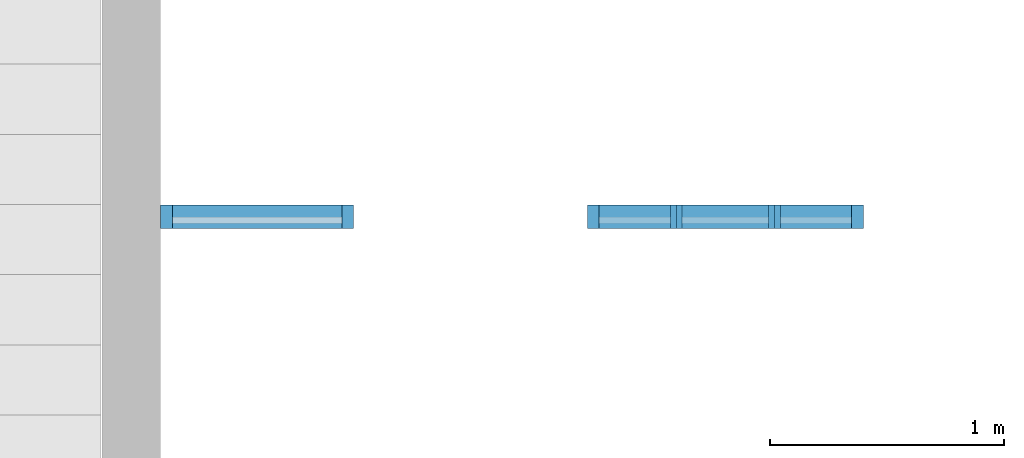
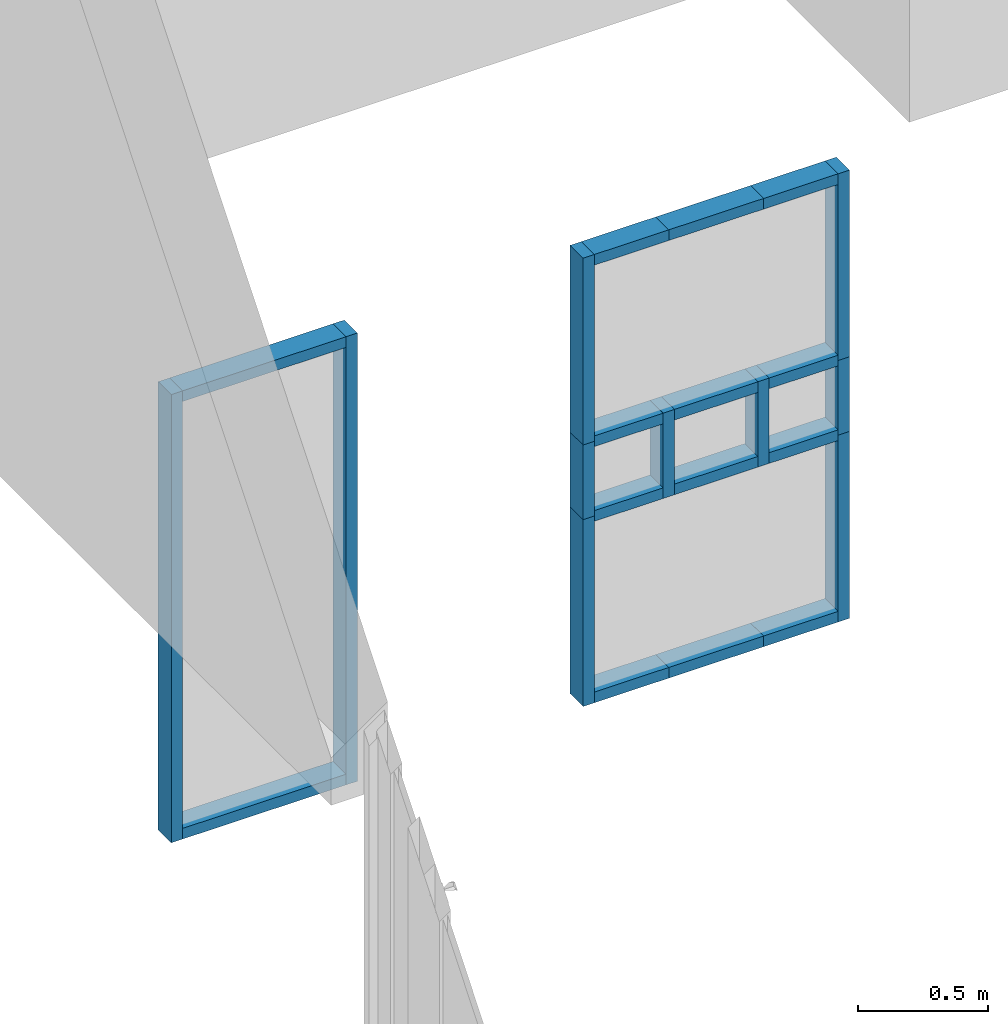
# One storey, part 1 of 46: 24 members, 2 elements without a shape of their own.
"""IFC2X3 building model written with IfcOpenShell, lengths in millimetres."""

from ifc_helpers import new_model, entity, si_unit, converted_unit, derived_unit, direction, frame, origin, origin_2d_with_axis, place, context, subcontext, project, spatial, rectangle, extrude, source, transform, mapped, material, type_object, type_shapes, element, aggregate, save


model = new_model("IFC2X3")

# Units and contexts
model_context = context("Model", 3, precision=0.01, world=origin(), true_north=direction((6.12303176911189e-17, 1.0)))
body_context = subcontext(model_context, "Body", "Model", "MODEL_VIEW")
ifc_project = project(units=[si_unit("LENGTHUNIT", "METRE", prefix="MILLI"), si_unit("AREAUNIT", "SQUARE_METRE"), si_unit("VOLUMEUNIT", "CUBIC_METRE"), converted_unit("PLANEANGLEUNIT", "DEGREE", entity("IfcRatioMeasure", 0.0174532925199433), si_unit("PLANEANGLEUNIT", "RADIAN"), dimensions=[0, 0, 0, 0, 0, 0, 0]), si_unit("MASSUNIT", "GRAM", prefix="KILO"), derived_unit("MASSDENSITYUNIT", [(si_unit("MASSUNIT", "GRAM", prefix="KILO"), 1), (si_unit("LENGTHUNIT", "METRE"), -3)]), si_unit("TIMEUNIT", "SECOND"), si_unit("FREQUENCYUNIT", "HERTZ"), si_unit("THERMODYNAMICTEMPERATUREUNIT", "DEGREE_CELSIUS"), derived_unit("THERMALTRANSMITTANCEUNIT", [(si_unit("MASSUNIT", "GRAM", prefix="KILO"), 1), (si_unit("THERMODYNAMICTEMPERATUREUNIT", "KELVIN"), -1), (si_unit("TIMEUNIT", "SECOND"), -3)]), derived_unit("VOLUMETRICFLOWRATEUNIT", [(si_unit("LENGTHUNIT", "METRE"), 3), (si_unit("TIMEUNIT", "SECOND"), -1)]), si_unit("ELECTRICCURRENTUNIT", "AMPERE"), si_unit("ELECTRICVOLTAGEUNIT", "VOLT"), si_unit("POWERUNIT", "WATT"), si_unit("FORCEUNIT", "NEWTON", prefix="KILO"), si_unit("ILLUMINANCEUNIT", "LUX"), si_unit("LUMINOUSFLUXUNIT", "LUMEN"), si_unit("LUMINOUSINTENSITYUNIT", "CANDELA"), derived_unit("USERDEFINED", [(si_unit("MASSUNIT", "GRAM", prefix="KILO"), -1), (si_unit("LENGTHUNIT", "METRE"), -2), (si_unit("TIMEUNIT", "SECOND"), 3), (si_unit("LUMINOUSFLUXUNIT", "LUMEN"), 1)]), derived_unit("LINEARVELOCITYUNIT", [(si_unit("LENGTHUNIT", "METRE"), 1), (si_unit("TIMEUNIT", "SECOND"), -1)]), si_unit("PRESSUREUNIT", "PASCAL"), derived_unit("USERDEFINED", [(si_unit("LENGTHUNIT", "METRE"), -2), (si_unit("MASSUNIT", "GRAM", prefix="KILO"), 1), (si_unit("TIMEUNIT", "SECOND"), -2)]), derived_unit("LINEARFORCEUNIT", [(si_unit("MASSUNIT", "GRAM", prefix="KILO"), 1), (si_unit("LENGTHUNIT", "METRE"), 1), (si_unit("TIMEUNIT", "SECOND"), -2), (si_unit("LENGTHUNIT", "METRE"), -1)]), derived_unit("PLANARFORCEUNIT", [(si_unit("MASSUNIT", "GRAM", prefix="KILO"), 1), (si_unit("LENGTHUNIT", "METRE"), 1), (si_unit("TIMEUNIT", "SECOND"), -2), (si_unit("LENGTHUNIT", "METRE"), -2)])], contexts=[model_context])

# Site, building, storey
site_placement = place(None, origin())
site = spatial("IfcSite", under=ifc_project, at=site_placement, Name="Default", CompositionType="ELEMENT")
building_placement = place(site_placement, origin())
building = spatial("IfcBuilding", under=site, at=building_placement, Name="SMA ARH", CompositionType="ELEMENT")
storey_placement = place(building_placement, origin())
storey = spatial("IfcBuildingStorey", under=building, at=storey_placement, Name="1 Korrus", CompositionType="ELEMENT", Elevation=0.0)

# Curtain wall, members
curtain_wall_type = type_object("IfcCurtainWallType", Name="Curtain Wall:Curtain Wall SKF-02", PredefinedType="NOTDEFINED")
curtain_wall_1_placement = place(storey_placement, origin())
curtain_wall_1 = element("IfcCurtainWall", 1, at=curtain_wall_1_placement, inside=storey, type_object=curtain_wall_type, Name="Curtain Wall:Curtain Wall SKF-02", ObjectType="Curtain Wall:Curtain Wall SKF-02")
ifc_material = material(Name="__Aknaraam")
member_type_1 = type_object("IfcMemberType", Name="Rectangular Mullion:50 x 100mm", PredefinedType="MULLION", material=ifc_material)
shared_shape_1 = source(origin(), body_context, "Body", "SweptSolid", [
    extrude(rectangle(XDim=100.0, YDim=50.0, at=origin_2d_with_axis()), frame((-25.0, 0.0, -330.0), z_axis=(0.0, 0.0, 1.0), x_axis=(0.0, -1.0, 0.0)), (0.0, 0.0, 1.0), 329.999999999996),
])
type_shapes(member_type_1, [shared_shape_1])
member_1_placement = place(storey_placement, frame((36820.0, 3695.0, 830.0), z_axis=(1.0, 0.0, 0.0), x_axis=(0.0, 0.0, 1.0)))
member_1 = element("IfcMember", 2, at=member_1_placement, type_object=member_type_1, material=ifc_material, Name="Rectangular Mullion:50 x 100mm", ObjectType="Rectangular Mullion:50 x 100mm", context=body_context, shape_type="MappedRepresentation", body=[
    mapped(shared_shape_1, transform((0.0, 0.0, 0.0), scale=1.0)),
])
member_type_2 = type_object("IfcMemberType", Name="Rectangular Mullion:50 x 100mm", PredefinedType="MULLION", material=ifc_material)
shared_shape_2 = source(origin(), body_context, "Body", "SweptSolid", [
    extrude(rectangle(XDim=100.0, YDim=50.0, at=origin_2d_with_axis()), frame((-25.0, 0.0, -330.0), z_axis=(0.0, 0.0, 1.0), x_axis=(0.0, -1.0, 0.0)), (0.0, 0.0, 1.0), 330.000000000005),
])
type_shapes(member_type_2, [shared_shape_2])
member_2_placement = place(storey_placement, frame((35740.0, 3695.0, -1270.0), z_axis=(-1.0, 0.0, 0.0), x_axis=(0.0, 0.0, -1.0)))
member_2 = element("IfcMember", 3, at=member_2_placement, type_object=member_type_2, material=ifc_material, Name="Rectangular Mullion:50 x 100mm", ObjectType="Rectangular Mullion:50 x 100mm", context=body_context, shape_type="MappedRepresentation", body=[
    mapped(shared_shape_2, transform((0.0, 0.0, 0.0), scale=1.0)),
])
member_type_3 = type_object("IfcMemberType", Name="Rectangular Mullion:50 x 100mm", PredefinedType="MULLION", material=ifc_material)
shared_shape_3 = source(origin(), body_context, "Body", "SweptSolid", [
    extrude(rectangle(XDim=100.0, YDim=50.0, at=origin_2d_with_axis()), frame((-25.0, 0.0, -875.0), z_axis=(0.0, 0.0, 1.0), x_axis=(0.0, -1.0, 0.0)), (0.0, 0.0, 1.0), 874.99999999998),
])
type_shapes(member_type_3, [shared_shape_3])
member_3_placement = place(storey_placement, frame((35690.0, 3695.0, 830.0), z_axis=(0.0, 0.0, 1.0), x_axis=(-1.0, 0.0, 0.0)))
member_3 = element("IfcMember", 4, at=member_3_placement, type_object=member_type_3, material=ifc_material, Name="Rectangular Mullion:50 x 100mm", ObjectType="Rectangular Mullion:50 x 100mm", context=body_context, shape_type="MappedRepresentation", body=[
    mapped(shared_shape_3, transform((0.0, 0.0, 0.0), scale=1.0)),
])
member_type_4 = type_object("IfcMemberType", Name="Rectangular Mullion:50 x 100mm", PredefinedType="MULLION", material=ifc_material)
shared_shape_4 = source(origin(), body_context, "Body", "SweptSolid", [
    extrude(rectangle(XDim=100.0, YDim=50.0, at=origin_2d_with_axis()), frame((-25.0, 0.0, -350.0), z_axis=(0.0, 0.0, 1.0), x_axis=(0.0, -1.0, 0.0)), (0.0, 0.0, 1.0), 350.000000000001),
])
type_shapes(member_type_4, [shared_shape_4])
member_4_placement = place(storey_placement, frame((35690.0, 3695.0, -45.0), z_axis=(0.0, 0.0, 1.0), x_axis=(-1.0, 0.0, 0.0)))
member_4 = element("IfcMember", 5, at=member_4_placement, type_object=member_type_4, material=ifc_material, Name="Rectangular Mullion:50 x 100mm", ObjectType="Rectangular Mullion:50 x 100mm", context=body_context, shape_type="MappedRepresentation", body=[
    mapped(shared_shape_4, transform((0.0, 0.0, 0.0), scale=1.0)),
])
member_type_5 = type_object("IfcMemberType", Name="Rectangular Mullion:50 x 100mm", PredefinedType="MULLION", material=ifc_material)
shared_shape_5 = source(origin(), body_context, "Body", "SweptSolid", [
    extrude(rectangle(XDim=100.0, YDim=50.0, at=origin_2d_with_axis()), frame((0.0, 0.0, -305.0), z_axis=(0.0, 0.0, 1.0), x_axis=(0.0, -1.0, 0.0)), (0.0, 0.0, 1.0), 304.999999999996),
])
type_shapes(member_type_5, [shared_shape_5])
member_5_placement = place(storey_placement, frame((36045.0, 3695.0, -45.0), z_axis=(1.0, 0.0, 0.0), x_axis=(0.0, 0.0, 1.0)))
member_5 = element("IfcMember", 6, at=member_5_placement, type_object=member_type_5, material=ifc_material, Name="Rectangular Mullion:50 x 100mm", ObjectType="Rectangular Mullion:50 x 100mm", context=body_context, shape_type="MappedRepresentation", body=[
    mapped(shared_shape_5, transform((0.0, 0.0, 0.0), scale=1.0)),
])
member_6_placement = place(storey_placement, frame((36045.0, 3695.0, -395.0), z_axis=(1.0, 0.0, 0.0), x_axis=(0.0, 0.0, 1.0)))
member_6 = element("IfcMember", 7, at=member_6_placement, type_object=member_type_5, material=ifc_material, Name="Rectangular Mullion:50 x 100mm", ObjectType="Rectangular Mullion:50 x 100mm", context=body_context, shape_type="MappedRepresentation", body=[
    mapped(shared_shape_5, transform((0.0, 0.0, 0.0), scale=1.0)),
])
member_7_placement = place(storey_placement, frame((36820.0, 3695.0, -395.0), z_axis=(1.0, 0.0, 0.0), x_axis=(0.0, 0.0, 1.0)))
member_7 = element("IfcMember", 8, at=member_7_placement, type_object=member_type_5, material=ifc_material, Name="Rectangular Mullion:50 x 100mm", ObjectType="Rectangular Mullion:50 x 100mm", context=body_context, shape_type="MappedRepresentation", body=[
    mapped(shared_shape_5, transform((0.0, 0.0, 0.0), scale=1.0)),
])
member_8_placement = place(storey_placement, frame((36820.0, 3695.0, -45.0), z_axis=(1.0, 0.0, 0.0), x_axis=(0.0, 0.0, 1.0)))
member_8 = element("IfcMember", 9, at=member_8_placement, type_object=member_type_5, material=ifc_material, Name="Rectangular Mullion:50 x 100mm", ObjectType="Rectangular Mullion:50 x 100mm", context=body_context, shape_type="MappedRepresentation", body=[
    mapped(shared_shape_5, transform((0.0, 0.0, 0.0), scale=1.0)),
])
member_type_6 = type_object("IfcMemberType", Name="Rectangular Mullion:50 x 100mm", PredefinedType="MULLION", material=ifc_material)
shared_shape_6 = source(origin(), body_context, "Body", "SweptSolid", [
    extrude(rectangle(XDim=100.0, YDim=50.0, at=origin_2d_with_axis()), frame((-25.0, 0.0, -875.0), z_axis=(0.0, 0.0, 1.0), x_axis=(0.0, -1.0, 0.0)), (0.0, 0.0, 1.0), 875.000000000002),
])
type_shapes(member_type_6, [shared_shape_6])
member_9_placement = place(storey_placement, frame((35690.0, 3695.0, -395.0), z_axis=(0.0, 0.0, 1.0), x_axis=(-1.0, 0.0, 0.0)))
member_9 = element("IfcMember", 10, at=member_9_placement, type_object=member_type_6, material=ifc_material, Name="Rectangular Mullion:50 x 100mm", ObjectType="Rectangular Mullion:50 x 100mm", context=body_context, shape_type="MappedRepresentation", body=[
    mapped(shared_shape_6, transform((0.0, 0.0, 0.0), scale=1.0)),
])
member_type_7 = type_object("IfcMemberType", Name="Rectangular Mullion:50 x 100mm", PredefinedType="MULLION", material=ifc_material)
shared_shape_7 = source(origin(), body_context, "Body", "SweptSolid", [
    extrude(rectangle(XDim=100.0, YDim=50.0, at=origin_2d_with_axis()), frame((-25.0, 0.0, -875.0), z_axis=(0.0, 0.0, 1.0), x_axis=(0.0, -1.0, 0.0)), (0.0, 0.0, 1.0), 874.99999999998),
])
type_shapes(member_type_7, [shared_shape_7])
member_10_placement = place(storey_placement, frame((36870.0, 3695.0, -45.0), z_axis=(0.0, 0.0, -1.0), x_axis=(1.0, 0.0, 0.0)))
member_10 = element("IfcMember", 11, at=member_10_placement, type_object=member_type_7, material=ifc_material, Name="Rectangular Mullion:50 x 100mm", ObjectType="Rectangular Mullion:50 x 100mm", context=body_context, shape_type="MappedRepresentation", body=[
    mapped(shared_shape_7, transform((0.0, 0.0, 0.0), scale=1.0)),
])
member_type_8 = type_object("IfcMemberType", Name="Rectangular Mullion:50 x 100mm", PredefinedType="MULLION", material=ifc_material)
shared_shape_8 = source(origin(), body_context, "Body", "SweptSolid", [
    extrude(rectangle(XDim=100.0, YDim=50.0, at=origin_2d_with_axis()), frame((-25.0, 0.0, -875.0), z_axis=(0.0, 0.0, 1.0), x_axis=(0.0, -1.0, 0.0)), (0.0, 0.0, 1.0), 875.000000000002),
])
type_shapes(member_type_8, [shared_shape_8])
member_11_placement = place(storey_placement, frame((36870.0, 3695.0, -1270.0), z_axis=(0.0, 0.0, -1.0), x_axis=(1.0, 0.0, 0.0)))
member_11 = element("IfcMember", 12, at=member_11_placement, type_object=member_type_8, material=ifc_material, Name="Rectangular Mullion:50 x 100mm", ObjectType="Rectangular Mullion:50 x 100mm", context=body_context, shape_type="MappedRepresentation", body=[
    mapped(shared_shape_8, transform((0.0, 0.0, 0.0), scale=1.0)),
])
member_type_9 = type_object("IfcMemberType", Name="Rectangular Mullion:50 x 100mm", PredefinedType="MULLION", material=ifc_material)
shared_shape_9 = source(origin(), body_context, "Body", "SweptSolid", [
    extrude(rectangle(XDim=100.0, YDim=50.0, at=origin_2d_with_axis()), frame((-25.0, 0.0, -350.0), z_axis=(0.0, 0.0, 1.0), x_axis=(0.0, -1.0, 0.0)), (0.0, 0.0, 1.0), 350.000000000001),
])
type_shapes(member_type_9, [shared_shape_9])
member_12_placement = place(storey_placement, frame((36870.0, 3695.0, -395.0), z_axis=(0.0, 0.0, -1.0), x_axis=(1.0, 0.0, 0.0)))
member_12 = element("IfcMember", 13, at=member_12_placement, type_object=member_type_9, material=ifc_material, Name="Rectangular Mullion:50 x 100mm", ObjectType="Rectangular Mullion:50 x 100mm", context=body_context, shape_type="MappedRepresentation", body=[
    mapped(shared_shape_9, transform((0.0, 0.0, 0.0), scale=1.0)),
])
member_type_10 = type_object("IfcMemberType", Name="Rectangular Mullion:50 x 100mm", PredefinedType="MULLION", material=ifc_material)
shared_shape_10 = source(origin(), body_context, "Body", "SweptSolid", [
    extrude(rectangle(XDim=100.0, YDim=50.0, at=origin_2d_with_axis()), frame((-25.0, 0.0, -330.0), z_axis=(0.0, 0.0, 1.0), x_axis=(0.0, -1.0, 0.0)), (0.0, 0.0, 1.0), 330.000000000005),
])
type_shapes(member_type_10, [shared_shape_10])
member_13_placement = place(storey_placement, frame((36070.0, 3695.0, 830.0), z_axis=(1.0, 0.0, 0.0), x_axis=(0.0, 0.0, 1.0)))
member_13 = element("IfcMember", 14, at=member_13_placement, type_object=member_type_10, material=ifc_material, Name="Rectangular Mullion:50 x 100mm", ObjectType="Rectangular Mullion:50 x 100mm", context=body_context, shape_type="MappedRepresentation", body=[
    mapped(shared_shape_10, transform((0.0, 0.0, 0.0), scale=1.0)),
])
member_type_11 = type_object("IfcMemberType", Name="Rectangular Mullion:50 x 100mm", PredefinedType="MULLION", material=ifc_material)
shared_shape_11 = source(origin(), body_context, "Body", "SweptSolid", [
    extrude(rectangle(XDim=100.0, YDim=50.0, at=origin_2d_with_axis()), frame((-25.0, 0.0, -420.0), z_axis=(0.0, 0.0, 1.0), x_axis=(0.0, -1.0, 0.0)), (0.0, 0.0, 1.0), 420.0),
])
type_shapes(member_type_11, [shared_shape_11])
member_14_placement = place(storey_placement, frame((36070.0, 3695.0, -1270.0), z_axis=(-1.0, 0.0, 0.0), x_axis=(0.0, 0.0, -1.0)))
member_14 = element("IfcMember", 15, at=member_14_placement, type_object=member_type_11, material=ifc_material, Name="Rectangular Mullion:50 x 100mm", ObjectType="Rectangular Mullion:50 x 100mm", context=body_context, shape_type="MappedRepresentation", body=[
    mapped(shared_shape_11, transform((0.0, 0.0, 0.0), scale=1.0)),
])
member_type_12 = type_object("IfcMemberType", Name="Rectangular Mullion:50 x 100mm", PredefinedType="MULLION", material=ifc_material)
shared_shape_12 = source(origin(), body_context, "Body", "SweptSolid", [
    extrude(rectangle(XDim=100.0, YDim=50.0, at=origin_2d_with_axis()), frame((0.0, 0.0, -370.0), z_axis=(0.0, 0.0, 1.0), x_axis=(0.0, -1.0, 0.0)), (0.0, 0.0, 1.0), 370.0),
])
type_shapes(member_type_12, [shared_shape_12])
member_15_placement = place(storey_placement, frame((36465.0, 3695.0, -395.0), z_axis=(1.0, 0.0, 0.0), x_axis=(0.0, 0.0, 1.0)))
member_15 = element("IfcMember", 16, at=member_15_placement, type_object=member_type_12, material=ifc_material, Name="Rectangular Mullion:50 x 100mm", ObjectType="Rectangular Mullion:50 x 100mm", context=body_context, shape_type="MappedRepresentation", body=[
    mapped(shared_shape_12, transform((0.0, 0.0, 0.0), scale=1.0)),
])
member_16_placement = place(storey_placement, frame((36465.0, 3695.0, -45.0), z_axis=(1.0, 0.0, 0.0), x_axis=(0.0, 0.0, 1.0)))
member_16 = element("IfcMember", 17, at=member_16_placement, type_object=member_type_12, material=ifc_material, Name="Rectangular Mullion:50 x 100mm", ObjectType="Rectangular Mullion:50 x 100mm", context=body_context, shape_type="MappedRepresentation", body=[
    mapped(shared_shape_12, transform((0.0, 0.0, 0.0), scale=1.0)),
])
member_type_13 = type_object("IfcMemberType", Name="Rectangular Mullion:50 x 100mm", PredefinedType="MULLION", material=ifc_material)
shared_shape_13 = source(origin(), body_context, "Body", "SweptSolid", [
    extrude(rectangle(XDim=100.0, YDim=50.0, at=origin_2d_with_axis()), frame((0.0, 0.0, -400.0), z_axis=(0.0, 0.0, 1.0), x_axis=(0.0, -1.0, 0.0)), (0.0, 0.0, 1.0), 400.000000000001),
])
type_shapes(member_type_13, [shared_shape_13])
member_17_placement = place(storey_placement, frame((36070.0, 3695.0, -420.0), z_axis=(0.0, 0.0, -1.0), x_axis=(1.0, 0.0, 0.0)))
member_17 = element("IfcMember", 18, at=member_17_placement, type_object=member_type_13, material=ifc_material, Name="Rectangular Mullion:50 x 100mm", ObjectType="Rectangular Mullion:50 x 100mm", context=body_context, shape_type="MappedRepresentation", body=[
    mapped(shared_shape_13, transform((0.0, 0.0, 0.0), scale=1.0)),
])
member_18_placement = place(storey_placement, frame((36490.0, 3695.0, -420.0), z_axis=(0.0, 0.0, -1.0), x_axis=(1.0, 0.0, 0.0)))
member_18 = element("IfcMember", 19, at=member_18_placement, type_object=member_type_13, material=ifc_material, Name="Rectangular Mullion:50 x 100mm", ObjectType="Rectangular Mullion:50 x 100mm", context=body_context, shape_type="MappedRepresentation", body=[
    mapped(shared_shape_13, transform((0.0, 0.0, 0.0), scale=1.0)),
])
member_type_14 = type_object("IfcMemberType", Name="Rectangular Mullion:50 x 100mm", PredefinedType="MULLION", material=ifc_material)
shared_shape_14 = source(origin(), body_context, "Body", "SweptSolid", [
    extrude(rectangle(XDim=100.0, YDim=50.0, at=origin_2d_with_axis()), frame((-25.0, 0.0, -420.0), z_axis=(0.0, 0.0, 1.0), x_axis=(0.0, -1.0, 0.0)), (0.0, 0.0, 1.0), 420.0),
])
type_shapes(member_type_14, [shared_shape_14])
member_19_placement = place(storey_placement, frame((36490.0, 3695.0, 830.0), z_axis=(1.0, 0.0, 0.0), x_axis=(0.0, 0.0, 1.0)))
member_19 = element("IfcMember", 20, at=member_19_placement, type_object=member_type_14, material=ifc_material, Name="Rectangular Mullion:50 x 100mm", ObjectType="Rectangular Mullion:50 x 100mm", context=body_context, shape_type="MappedRepresentation", body=[
    mapped(shared_shape_14, transform((0.0, 0.0, 0.0), scale=1.0)),
])
member_type_15 = type_object("IfcMemberType", Name="Rectangular Mullion:50 x 100mm", PredefinedType="MULLION", material=ifc_material)
shared_shape_15 = source(origin(), body_context, "Body", "SweptSolid", [
    extrude(rectangle(XDim=100.0, YDim=50.0, at=origin_2d_with_axis()), frame((-25.0, 0.0, -330.0), z_axis=(0.0, 0.0, 1.0), x_axis=(0.0, -1.0, 0.0)), (0.0, 0.0, 1.0), 329.999999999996),
])
type_shapes(member_type_15, [shared_shape_15])
member_20_placement = place(storey_placement, frame((36490.0, 3695.0, -1270.0), z_axis=(-1.0, 0.0, 0.0), x_axis=(0.0, 0.0, -1.0)))
member_20 = element("IfcMember", 21, at=member_20_placement, type_object=member_type_15, material=ifc_material, Name="Rectangular Mullion:50 x 100mm", ObjectType="Rectangular Mullion:50 x 100mm", context=body_context, shape_type="MappedRepresentation", body=[
    mapped(shared_shape_15, transform((0.0, 0.0, 0.0), scale=1.0)),
])
aggregate(curtain_wall_1, [member_1, member_2, member_3, member_4, member_5, member_9, member_6, member_10, member_11, member_12, member_13, member_14, member_15, member_16, member_17, member_19, member_20, member_7, member_8, member_18])

curtain_wall_2_placement = place(storey_placement, origin())
curtain_wall_2 = element("IfcCurtainWall", 22, at=curtain_wall_2_placement, inside=storey, type_object=curtain_wall_type, Name="Curtain Wall:Curtain Wall SKF-02", ObjectType="Curtain Wall:Curtain Wall SKF-02")
member_type_16 = type_object("IfcMemberType", Name="Rectangular Mullion:50 x 100mm", PredefinedType="MULLION", material=ifc_material)
shared_shape_16 = source(origin(), body_context, "Body", "SweptSolid", [
    extrude(rectangle(XDim=100.0, YDim=50.0, at=origin_2d_with_axis()), frame((-25.0, 0.0, -2100.0), z_axis=(0.0, 0.0, 1.0), x_axis=(0.0, -1.0, 0.0)), (0.0, 0.0, 1.0), 2099.99999999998),
])
type_shapes(member_type_16, [shared_shape_16])
member_21_placement = place(storey_placement, frame((33865.0, 3695.0, -1270.0), z_axis=(0.0, 0.0, -1.0), x_axis=(-1.0, 0.0, 0.0)))
member_21 = element("IfcMember", 23, at=member_21_placement, type_object=member_type_16, material=ifc_material, Name="Rectangular Mullion:50 x 100mm", ObjectType="Rectangular Mullion:50 x 100mm", context=body_context, shape_type="MappedRepresentation", body=[
    mapped(shared_shape_16, transform((0.0, 0.0, 0.0), scale=1.0)),
])
member_type_17 = type_object("IfcMemberType", Name="Rectangular Mullion:50 x 100mm", PredefinedType="MULLION", material=ifc_material)
shared_shape_17 = source(origin(), body_context, "Body", "SweptSolid", [
    extrude(rectangle(XDim=100.0, YDim=50.0, at=origin_2d_with_axis()), frame((-25.0, 0.0, -725.0), z_axis=(0.0, 0.0, 1.0), x_axis=(0.0, -1.0, 0.0)), (0.0, 0.0, 1.0), 724.999999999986),
])
type_shapes(member_type_17, [shared_shape_17])
member_22_placement = place(storey_placement, frame((33915.0, 3695.0, 830.0), z_axis=(-1.0, 0.0, 0.0), x_axis=(0.0, 0.0, 1.0)))
member_22 = element("IfcMember", 24, at=member_22_placement, type_object=member_type_17, material=ifc_material, Name="Rectangular Mullion:50 x 100mm", ObjectType="Rectangular Mullion:50 x 100mm", context=body_context, shape_type="MappedRepresentation", body=[
    mapped(shared_shape_17, transform((0.0, 0.0, 0.0), scale=1.0)),
])
member_type_18 = type_object("IfcMemberType", Name="Rectangular Mullion:50 x 100mm", PredefinedType="MULLION", material=ifc_material)
shared_shape_18 = source(origin(), body_context, "Body", "SweptSolid", [
    extrude(rectangle(XDim=100.0, YDim=50.0, at=origin_2d_with_axis()), frame((-25.0, 0.0, -725.0), z_axis=(0.0, 0.0, 1.0), x_axis=(0.0, -1.0, 0.0)), (0.0, 0.0, 1.0), 724.999999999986),
])
type_shapes(member_type_18, [shared_shape_18])
member_23_placement = place(storey_placement, frame((34640.0, 3695.0, -1270.0), z_axis=(1.0, 0.0, 0.0), x_axis=(0.0, 0.0, -1.0)))
member_23 = element("IfcMember", 25, at=member_23_placement, type_object=member_type_18, material=ifc_material, Name="Rectangular Mullion:50 x 100mm", ObjectType="Rectangular Mullion:50 x 100mm", context=body_context, shape_type="MappedRepresentation", body=[
    mapped(shared_shape_18, transform((0.0, 0.0, 0.0), scale=1.0)),
])
member_type_19 = type_object("IfcMemberType", Name="Rectangular Mullion:50 x 100mm", PredefinedType="MULLION", material=ifc_material)
shared_shape_19 = source(origin(), body_context, "Body", "SweptSolid", [
    extrude(rectangle(XDim=100.0, YDim=50.0, at=origin_2d_with_axis()), frame((-25.0, 0.0, -2100.0), z_axis=(0.0, 0.0, 1.0), x_axis=(0.0, -1.0, 0.0)), (0.0, 0.0, 1.0), 2099.99999999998),
])
type_shapes(member_type_19, [shared_shape_19])
member_24_placement = place(storey_placement, frame((34690.0, 3695.0, 830.0)))
member_24 = element("IfcMember", 26, at=member_24_placement, type_object=member_type_19, material=ifc_material, Name="Rectangular Mullion:50 x 100mm", ObjectType="Rectangular Mullion:50 x 100mm", context=body_context, shape_type="MappedRepresentation", body=[
    mapped(shared_shape_19, transform((0.0, 0.0, 0.0), scale=1.0)),
])
aggregate(curtain_wall_2, [member_21, member_22, member_23, member_24])

save(model, "model.ifc")
